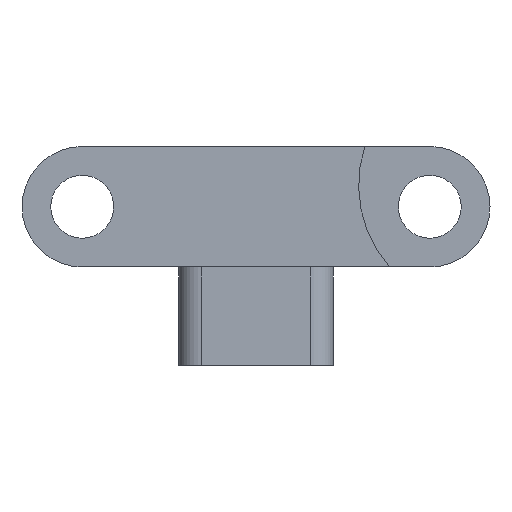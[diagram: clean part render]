
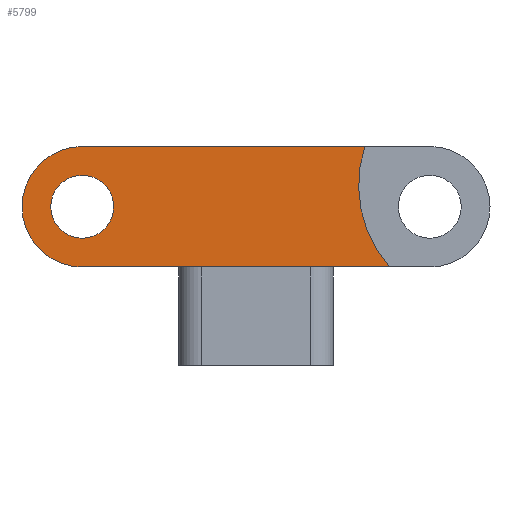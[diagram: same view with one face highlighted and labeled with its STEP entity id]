
A CAD part, front view. The second image highlights one B-rep face of the part: STEP entity #5799.
In plain terms, the highlighted planar face has unit normal (0, -1, 0).
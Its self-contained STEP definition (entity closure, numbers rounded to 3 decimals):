
#769=CARTESIAN_POINT('Vertex',(9.75,-76.2,-4.4)) ;
#772=CARTESIAN_POINT('Line Origine',(-1.475,-76.2,-4.4)) ;
#776=CARTESIAN_POINT('Vertex',(-12.7,-76.2,-4.4)) ;
#2926=CARTESIAN_POINT('Axis2P3D Location',(16.5,-76.2,1.565)) ;
#2930=CARTESIAN_POINT('Vertex',(9.75,-76.2,-4.388)) ;
#2932=CARTESIAN_POINT('Vertex',(7.958,-76.2,4.4)) ;
#2967=CARTESIAN_POINT('Vertex',(-10.4,-76.2,0.)) ;
#2970=CARTESIAN_POINT('Axis2P3D Location',(-12.7,-76.2,0.)) ;
#2974=CARTESIAN_POINT('Vertex',(-15.,-76.2,0.)) ;
#2996=CARTESIAN_POINT('Axis2P3D Location',(-12.7,-76.2,0.)) ;
#3944=CARTESIAN_POINT('Vertex',(-12.7,-76.2,4.4)) ;
#3947=CARTESIAN_POINT('Line Origine',(-2.371,-76.2,4.4)) ;
#5766=CARTESIAN_POINT('Line Origine',(9.75,-76.2,-4.394)) ;
#5778=CARTESIAN_POINT('Axis2P3D Location',(0.,-76.2,0.)) ;
#5783=CARTESIAN_POINT('Axis2P3D Location',(-12.7,-76.2,0.)) ;
#773=DIRECTION('Vector Direction',(1.,0.,0.)) ;
#2927=DIRECTION('Axis2P3D Direction',(0.,1.,-0.)) ;
#2971=DIRECTION('Axis2P3D Direction',(0.,1.,0.)) ;
#2997=DIRECTION('Axis2P3D Direction',(0.,1.,0.)) ;
#3948=DIRECTION('Vector Direction',(-1.,0.,0.)) ;
#5767=DIRECTION('Vector Direction',(0.,0.,-1.)) ;
#5779=DIRECTION('Axis2P3D Direction',(0.,1.,0.)) ;
#5780=DIRECTION('Axis2P3D XDirection',(-1.,0.,0.)) ;
#5784=DIRECTION('Axis2P3D Direction',(0.,1.,0.)) ;
#2928=AXIS2_PLACEMENT_3D('Circle Axis2P3D',#2926,#2927,$) ;
#2972=AXIS2_PLACEMENT_3D('Circle Axis2P3D',#2970,#2971,$) ;
#2998=AXIS2_PLACEMENT_3D('Circle Axis2P3D',#2996,#2997,$) ;
#5781=AXIS2_PLACEMENT_3D('Plane Axis2P3D',#5778,#5779,#5780) ;
#5785=AXIS2_PLACEMENT_3D('Circle Axis2P3D',#5783,#5784,$) ;
#5789=ORIENTED_EDGE('',*,*,#2934,.T.) ;
#5790=ORIENTED_EDGE('',*,*,#3951,.F.) ;
#5791=ORIENTED_EDGE('',*,*,#5787,.F.) ;
#5792=ORIENTED_EDGE('',*,*,#778,.F.) ;
#5793=ORIENTED_EDGE('',*,*,#5770,.F.) ;
#5796=ORIENTED_EDGE('',*,*,#3000,.T.) ;
#5797=ORIENTED_EDGE('',*,*,#2976,.T.) ;
#5798=FACE_BOUND('',#5795,.T.) ;
#774=VECTOR('Line Direction',#773,1.) ;
#3949=VECTOR('Line Direction',#3948,1.) ;
#5768=VECTOR('Line Direction',#5767,1.) ;
#5799=ADVANCED_FACE('PartBody',(#5794,#5798),#5782,.F.) ;
#2929=CIRCLE('generated circle',#2928,9.) ;
#2973=CIRCLE('generated circle',#2972,2.3) ;
#2999=CIRCLE('generated circle',#2998,2.3) ;
#5786=CIRCLE('generated circle',#5785,4.4) ;
#778=EDGE_CURVE('',#770,#777,#775,.F.) ;
#2934=EDGE_CURVE('',#2931,#2933,#2929,.T.) ;
#2976=EDGE_CURVE('',#2975,#2968,#2973,.T.) ;
#3000=EDGE_CURVE('',#2968,#2975,#2999,.T.) ;
#3951=EDGE_CURVE('',#3945,#2933,#3950,.F.) ;
#5770=EDGE_CURVE('',#2931,#770,#5769,.T.) ;
#5787=EDGE_CURVE('',#777,#3945,#5786,.T.) ;
#5788=EDGE_LOOP('',(#5789,#5790,#5791,#5792,#5793)) ;
#5795=EDGE_LOOP('',(#5796,#5797)) ;
#5794=FACE_OUTER_BOUND('',#5788,.T.) ;
#775=LINE('Line',#772,#774) ;
#3950=LINE('Line',#3947,#3949) ;
#5769=LINE('Line',#5766,#5768) ;
#5782=PLANE('',#5781) ;
#770=VERTEX_POINT('',#769) ;
#777=VERTEX_POINT('',#776) ;
#2931=VERTEX_POINT('',#2930) ;
#2933=VERTEX_POINT('',#2932) ;
#2968=VERTEX_POINT('',#2967) ;
#2975=VERTEX_POINT('',#2974) ;
#3945=VERTEX_POINT('',#3944) ;
